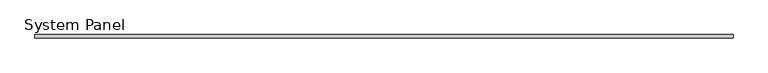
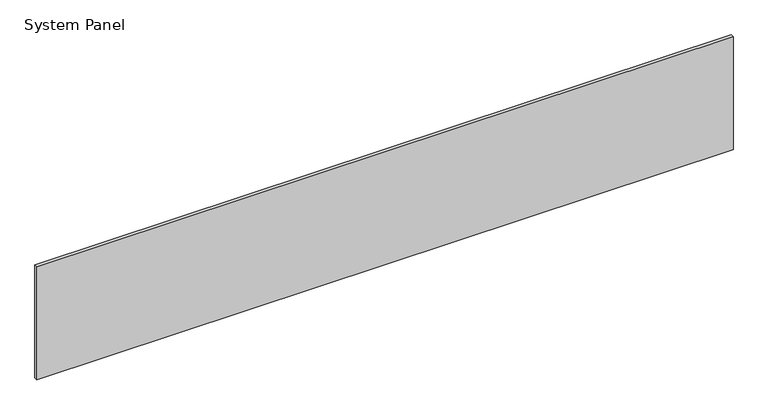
"""IFC4 building model written with IfcOpenShell, lengths in millimetres: plate geometry, システム パネル : System Panel."""

import ifcopenshell
import ifcopenshell.guid

model = None  # the IFC model being written
_history = None  # IfcOwnerHistory: only IFC2X3 demands one
_inside = {}  # id of a spatial element -> (the spatial element, [elements in it])
_under = {}  # id of a project, library or spatial element -> (it, [spatial elements below it])
_declared = {}  # id of a project -> (the project, [libraries it declares])
_typed = {}  # id of a type object -> (the type object, [elements of that type])
_made_of = {}  # id of a material, layer set ... -> (it, [elements and type objects made of it])


def new_model(schema):
    """Start an empty IFC model of exactly this schema.

    Asked for "IFC4X3", IfcOpenShell would pick the latest addendum, in which some entities
    have other attributes; the version numbers below select the first issue.
    IFC2X3 requires an IfcOwnerHistory on every rooted entity: one is made here for all.
    """
    global model, _history
    if schema == "IFC4X3":
        model = ifcopenshell.file(schema_version=(4, 3, 0, 0))
    else:
        model = ifcopenshell.file(schema=schema)
    _inside.clear()
    _under.clear()
    _declared.clear()
    _typed.clear()
    _made_of.clear()
    _history = None
    if model.schema == "IFC2X3":
        org = make("IfcOrganization", Name="unknown")
        user = make(
            "IfcPersonAndOrganization",
            ThePerson=make("IfcPerson", FamilyName="unknown"),
            TheOrganization=org,
        )
        app = make(
            "IfcApplication",
            ApplicationDeveloper=org,
            Version="unknown",
            ApplicationFullName="unknown",
            ApplicationIdentifier="unknown",
        )
        _history = make(
            "IfcOwnerHistory",
            OwningUser=user,
            OwningApplication=app,
            ChangeAction="ADDED",
            CreationDate=0,
        )
    return model


def make(cls, **values):
    """One entity of the class cls with the attributes given. An attribute that is None is left unset."""
    return model.create_entity(
        cls, **{name: value for name, value in values.items() if value is not None}
    )


def rooted(cls, **values):
    """An entity with a GlobalId (a new one), such as an element, a storey or a relation."""
    return make(cls, GlobalId=ifcopenshell.guid.new(), OwnerHistory=_history, **values)


def si_unit(unit_type, name, prefix=None):
    """IfcSIUnit, for example si_unit("LENGTHUNIT", "METRE", prefix="MILLI")."""
    return make("IfcSIUnit", UnitType=unit_type, Prefix=prefix, Name=name)


def assignment(units):
    """IfcUnitAssignment: the units of a project."""
    return None if units is None else make("IfcUnitAssignment", Units=units)


def point(xyz):
    """IfcCartesianPoint."""
    return None if xyz is None else make("IfcCartesianPoint", Coordinates=xyz)


def direction(xyz):
    """IfcDirection."""
    return None if xyz is None else make("IfcDirection", DirectionRatios=xyz)


def frame(location, z_axis=None, x_axis=None):
    """IfcAxis2Placement3D, a coordinate frame: its origin and axes. An axis left out is left unset."""
    return make(
        "IfcAxis2Placement3D",
        Location=point(location),
        Axis=direction(z_axis),
        RefDirection=direction(x_axis),
    )


def origin():
    """The frame at (0, 0, 0) with its axes left unset."""
    return frame((0.0, 0.0, 0.0))


def origin_with_axes():
    """The frame at (0, 0, 0) with the z axis (0, 0, 1) and the x axis (1, 0, 0) written out."""
    return frame((0.0, 0.0, 0.0), z_axis=(0.0, 0.0, 1.0), x_axis=(1.0, 0.0, 0.0))


def place(relative_to, where):
    """IfcLocalPlacement: puts the frame where relative to a parent placement (None: the world)."""
    return make(
        "IfcLocalPlacement", PlacementRelTo=relative_to, RelativePlacement=where
    )


def context(
    kind, dimensions, precision=None, world=None, true_north=None, identifier=None
):
    """IfcGeometricRepresentationContext, for example the 3D "Model" context."""
    return make(
        "IfcGeometricRepresentationContext",
        ContextIdentifier=identifier,
        ContextType=kind,
        CoordinateSpaceDimension=dimensions,
        Precision=precision,
        WorldCoordinateSystem=world,
        TrueNorth=true_north,
    )


def project(units=None, contexts=None):
    """IfcProject with its units and contexts."""
    return rooted(
        "IfcProject",
        Name="project",
        RepresentationContexts=contexts,
        UnitsInContext=assignment(units),
    )


def spatial(cls, under=None, at=None, **own):
    """A site, building, storey or space (cls), placed at a placement, below another one or the project."""
    s = rooted(cls, ObjectPlacement=at, **own)
    if under is not None:
        _under.setdefault(under.id(), (under, []))[1].append(s)
    return s


def polyline(points):
    """IfcPolyline through the points."""
    return make("IfcPolyline", Points=[point(p) for p in points])


def outline(outer, holes=None, kind="AREA"):
    """IfcArbitraryClosedProfileDef: a profile drawn as a closed curve; with holes, ...WithVoids."""
    if holes is None:
        return make("IfcArbitraryClosedProfileDef", ProfileType=kind, OuterCurve=outer)
    return make(
        "IfcArbitraryProfileDefWithVoids",
        ProfileType=kind,
        OuterCurve=outer,
        InnerCurves=holes,
    )


def extrude(swept, where, along, depth):
    """IfcExtrudedAreaSolid: the profile swept, set in the frame where, extruded along a direction by depth."""
    return make(
        "IfcExtrudedAreaSolid",
        SweptArea=swept,
        Position=where,
        ExtrudedDirection=direction(along),
        Depth=depth,
    )


def shape(context_of_items, identifier, shape_type, items):
    """IfcShapeRepresentation: the items that make up one representation, for example the "Body"."""
    return make(
        "IfcShapeRepresentation",
        ContextOfItems=context_of_items,
        RepresentationIdentifier=identifier,
        RepresentationType=shape_type,
        Items=items,
    )


def source(mapping_origin, context_of_items, identifier, shape_type, items):
    """IfcRepresentationMap: a shape defined once, which mapped items show again and again."""
    return make(
        "IfcRepresentationMap",
        MappingOrigin=mapping_origin,
        MappedRepresentation=shape(context_of_items, identifier, shape_type, items),
    )


def transform(
    local_origin,
    x_axis=None,
    y_axis=None,
    z_axis=None,
    scale=None,
    scale2=None,
    scale3=None,
    uniform=True,
):
    """IfcCartesianTransformationOperator3D, or its non-uniform kind. x_axis, y_axis, z_axis: its Axis1, 2, 3."""
    if uniform:
        return make(
            "IfcCartesianTransformationOperator3D",
            Axis1=direction(x_axis),
            Axis2=direction(y_axis),
            LocalOrigin=point(local_origin),
            Scale=scale,
            Axis3=direction(z_axis),
        )
    return make(
        "IfcCartesianTransformationOperator3DnonUniform",
        Axis1=direction(x_axis),
        Axis2=direction(y_axis),
        LocalOrigin=point(local_origin),
        Scale=scale,
        Axis3=direction(z_axis),
        Scale2=scale2,
        Scale3=scale3,
    )


def mapped(mapping_source, mapping_target):
    """IfcMappedItem: shows the shape of a source again, moved by a transform."""
    return make(
        "IfcMappedItem", MappingSource=mapping_source, MappingTarget=mapping_target
    )


def made_of(thing, what):
    """Note that an element or type object is made of a material, layer set ...; save() writes the relation."""
    if what is not None:
        _made_of.setdefault(what.id(), (what, []))[1].append(thing)
    return thing


def element(
    cls,
    number,
    at=None,
    inside=None,
    cuts=None,
    type_object=None,
    material=None,
    context=None,
    identifier="Body",
    shape_type=None,
    held_by="IfcProductDefinitionShape",
    body=None,
    shapes=None,
    **own,
):
    """One element of the class cls, such as IfcWall. Its Tag is "e" and its number.

    at: its placement. inside: the storey or other place that contains it. cuts: it is an
    opening in that element (IfcRelVoidsElement). A single representation is given by context,
    identifier, shape_type and body (its items); several are given by shapes. held_by: the class
    of the entity that holds the representations. save() writes the other relations.
    """
    e = rooted(cls, Tag="e%d" % number, ObjectPlacement=at, **own)
    if body is not None:
        shapes = [shape(context, identifier, shape_type, body)]
    if shapes is not None:
        e.Representation = make(held_by, Representations=shapes)
    if inside is not None:
        _inside.setdefault(inside.id(), (inside, []))[1].append(e)
    if cuts is not None:
        rooted(
            "IfcRelVoidsElement", RelatingBuildingElement=cuts, RelatedOpeningElement=e
        )
    if type_object is not None:
        _typed.setdefault(type_object.id(), (type_object, []))[1].append(e)
    return made_of(e, material)


def aggregate(whole, parts):
    """IfcRelAggregates: a whole, such as a stair, and the parts it consists of."""
    return rooted("IfcRelAggregates", RelatingObject=whole, RelatedObjects=parts)


def save(model, path):
    """Write the relations noted so far, then the file.

    IfcRelAggregates (storeys below a building ...), IfcRelContainedInSpatialStructure (elements
    in a storey), IfcRelDefinesByType, IfcRelAssociatesMaterial and IfcRelDeclares: one each for
    every whole, place, type object, material and project.
    """
    for whole, parts in _under.values():
        aggregate(whole, parts)
    for where, things in _inside.values():
        rooted(
            "IfcRelContainedInSpatialStructure",
            RelatedElements=things,
            RelatingStructure=where,
        )
    for kind, things in _typed.values():
        rooted("IfcRelDefinesByType", RelatedObjects=things, RelatingType=kind)
    for what, things in _made_of.values():
        rooted("IfcRelAssociatesMaterial", RelatedObjects=things, RelatingMaterial=what)
    for by, libraries in _declared.values():
        rooted("IfcRelDeclares", RelatingContext=by, RelatedDefinitions=libraries)
    model.write(path)


def system_panel_3b8cd947(model_context):
    return source(origin(), model_context, "Body", "SweptSolid", [
        extrude(outline(polyline([(2625.0, -12.5), (-2625.0, -12.5), (-2625.0, 12.5), (2625.0, 12.5), (2625.0, -12.5)])), origin_with_axes(), (0.0, 0.0, 1.0), 900.0),
    ])


if __name__ == "__main__":
    model = new_model("IFC4")
    model_context = context("Model", 3, world=origin())
    ifc_project = project(units=[si_unit("LENGTHUNIT", "METRE", prefix="MILLI")], contexts=[model_context])
    site = spatial("IfcSite", under=ifc_project)
    building = spatial("IfcBuilding", under=site)
    placement = place(None, origin())
    system_panel_shape = system_panel_3b8cd947(model_context)
    element("IfcPlate", 1, ObjectType="システム パネル : System Panel", at=placement, inside=building, context=model_context, shape_type="MappedRepresentation", body=[
        mapped(system_panel_shape, transform((0.0, 0.0, 0.0), x_axis=(1.0, 0.0, 0.0), y_axis=(0.0, 1.0, 0.0), z_axis=(0.0, 0.0, 1.0))),
    ])
    save(model, "model.ifc")
